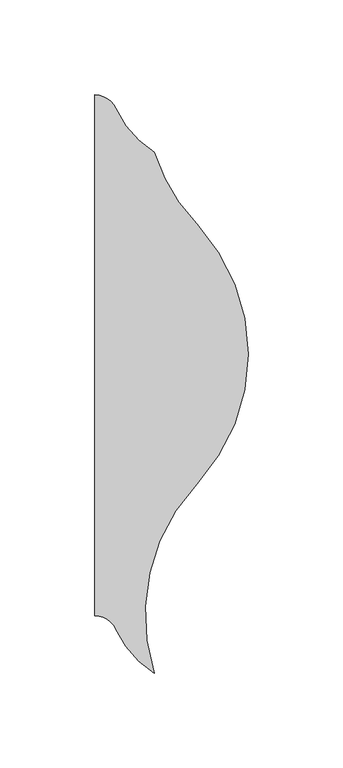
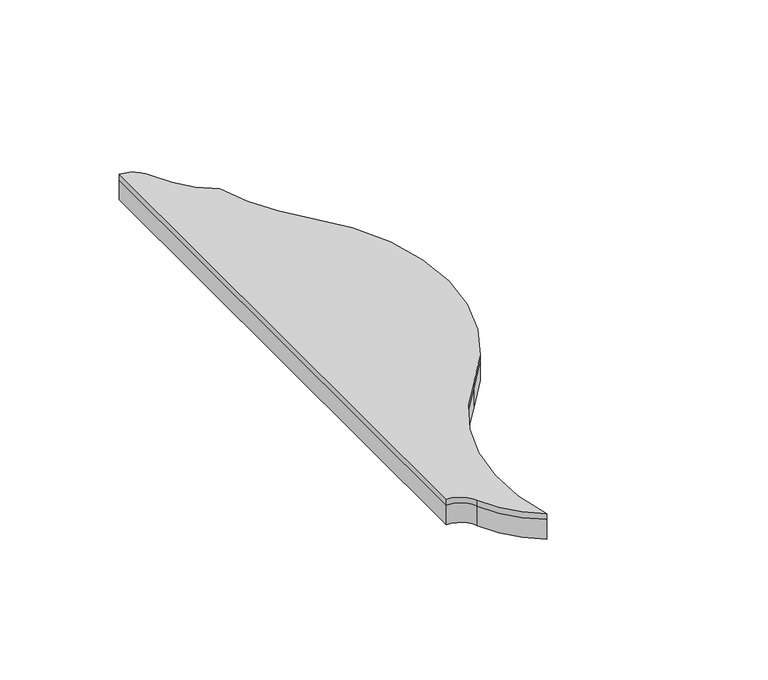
"""IFC4 building model written with IfcOpenShell, lengths in millimetres: proxy geometry, FilzFelt_Fish_Block : Fish Block."""

from ifc_helpers import new_model, si_unit, frame, origin, place, context, project, spatial, polyline, circle_curve, source, transform, mapped, element, save
from ifc_brep_helpers import plane_surface, cylinder_surface, revolved_surface, advanced_brep


def specialty_equipment_d667eb72(model_context):
    return source(origin(), model_context, "Body", "AdvancedBrep", [
        advanced_brep(
        [(53.5486457, 68.6120133, 10.0210937), (53.5486457, -68.6120133, 10.0210937), (31.2619065, -168.1141956, 10.0210937), (11.0103348, -145.0347036, 10.0210937), (0.0, -137.8641736, 10.0210937), (0.0, 136.5838795, 10.0210937), (11.0103348, 129.4133496, 10.0210937), (31.2619065, 106.3338576, 10.0210937), (53.5486457, 68.6120133, 12.9976563), (31.2619065, 106.3338576, 12.9976563), (11.0103348, 129.4133496, 12.9976563), (0.0, 136.5838795, 12.9976563), (0.0, -137.8641736, 12.9976563), (11.0103348, -145.0347036, 12.9976563), (31.2619065, -168.1141956, 12.9976563), (53.5486457, -68.6120133, 12.9976563), (80.7142226, 0.0, 12.9976563)],
        [
            (0, 1, circle_curve(frame((-19.5151403, 0.0, 10.0210937), z_axis=(0.0, 0.0, -1.0), x_axis=(-1.0, 0.0, 0.0)), 100.2293629)),
            (1, 2, circle_curve(frame((126.6124317, -137.2240266, 10.0210937), z_axis=(0.0, 0.0, 1.0), x_axis=(-1.0, 0.0, 0.0)), 100.2293629)),
            (2, 3, circle_curve(frame((57.9263497, -124.2921115, 10.0210937), z_axis=(0.0, 0.0, -1.0), x_axis=(-1.0, 0.0, 0.0)), 51.2968574)),
            (3, 4, circle_curve(frame((0.0, -149.9026124, 10.0210937), z_axis=(0.0, 0.0, 1.0), x_axis=(-1.0, 0.0, 0.0)), 12.0384388)),
            (4, 5),
            (5, 6, circle_curve(frame((0.0, 124.5454408, 10.0210937), z_axis=(0.0, 0.0, -1.0), x_axis=(-1.0, 0.0, 0.0)), 12.0384388)),
            (6, 7, circle_curve(frame((57.9263497, 150.1559416, 10.0210937), z_axis=(0.0, 0.0, 1.0), x_axis=(-1.0, 0.0, 0.0)), 51.2968574)),
            (7, 0, circle_curve(frame((126.6124317, 137.2240266, 10.0210937), z_axis=(0.0, 0.0, 1.0), x_axis=(-1.0, 0.0, 0.0)), 100.2293629)),
            (8, 9, circle_curve(frame((126.6124317, 137.2240266, 12.9976563), z_axis=(0.0, 0.0, -1.0), x_axis=(-1.0, 0.0, 0.0)), 100.2293629)),
            (9, 10, circle_curve(frame((57.9263497, 150.1559416, 12.9976563), z_axis=(0.0, 0.0, -1.0), x_axis=(-1.0, 0.0, 0.0)), 51.2968574)),
            (10, 11, circle_curve(frame((0.0, 124.5454408, 12.9976563), z_axis=(0.0, 0.0, 1.0), x_axis=(-1.0, 0.0, 0.0)), 12.0384388)),
            (11, 12),
            (12, 13, circle_curve(frame((0.0, -149.9026124, 12.9976563), z_axis=(0.0, 0.0, -1.0), x_axis=(-1.0, 0.0, 0.0)), 12.0384388)),
            (13, 14, circle_curve(frame((57.9263497, -124.2921115, 12.9976563), z_axis=(0.0, 0.0, 1.0), x_axis=(-1.0, 0.0, 0.0)), 51.2968574)),
            (14, 15, circle_curve(frame((126.6124317, -137.2240266, 12.9976563), z_axis=(0.0, 0.0, -1.0), x_axis=(-1.0, 0.0, 0.0)), 100.2293629)),
            (15, 16, circle_curve(frame((-19.5151403, 0.0, 12.9976563), z_axis=(0.0, 0.0, 1.0), x_axis=(-1.0, 0.0, 0.0)), 100.2293629)),
            (16, 8, circle_curve(frame((-19.5151403, 0.0, 12.9976563), z_axis=(0.0, 0.0, 1.0), x_axis=(-1.0, 0.0, 0.0)), 100.2293629)),
            (0, 8),
            (15, 1),
            (14, 2),
            (13, 3),
            (12, 4),
            (10, 6),
            (5, 11),
            (9, 7),
        ],
        [
            plane_surface(frame((0.0, 0.0, 10.0210937), z_axis=(0.0, 0.0, -1.0), x_axis=(0.0, -1.0, 0.0))),
            plane_surface(frame((0.0, 0.0, 12.9976563), z_axis=(0.0, 0.0, 1.0), x_axis=(0.0, -1.0, 0.0))),
            cylinder_surface(frame((-19.5151403, 0.0, 10.0210937), z_axis=(0.0, 0.0, -1.0), x_axis=(-1.0, 0.0, 0.0)), 100.2293629),
            revolved_surface(polyline([(26.383068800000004, -137.2240266, 12.9976563), (26.383068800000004, -137.2240266, 10.0210937)]), (126.6124317, -137.2240266, 10.0210937), (0.0, 0.0, 1.0)),
            cylinder_surface(frame((57.9263497, -124.2921115, 10.0210937), z_axis=(0.0, 0.0, -1.0), x_axis=(-1.0, 0.0, 0.0)), 51.2968574),
            revolved_surface(polyline([(-12.0384388, -149.9026124, 12.9976563), (-12.0384388, -149.9026124, 10.0210937)]), (0.0, -149.9026124, 10.0210937), (0.0, 0.0, 1.0)),
            cylinder_surface(frame((0.0, 124.5454408, 10.0210937), z_axis=(0.0, 0.0, -1.0), x_axis=(-1.0, 0.0, 0.0)), 12.0384388),
            revolved_surface(polyline([(6.629492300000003, 150.1559416, 12.9976563), (6.629492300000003, 150.1559416, 10.0210937)]), (57.9263497, 150.1559416, 10.0210937), (0.0, 0.0, 1.0)),
            revolved_surface(polyline([(26.383068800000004, 137.2240266, 12.9976563), (26.383068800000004, 137.2240266, 10.0210937)]), (126.6124317, 137.2240266, 10.0210937), (0.0, 0.0, 1.0)),
            plane_surface(frame((0.0, 168.3338795, 12.9976562), z_axis=(-1.0, 0.0, 0.0), x_axis=(0.0, -1.0, 0.0))),
        ],
        [
            (0, [[1, 2, 3, 4, 5, 6, 7, 8]]),
            (1, [[9, 10, 11, 12, 13, 14, 15, 16, 17]]),
            (2, [[-1, 18, -17, -16, 19]]),
            (3, [[-2, -19, -15, 20]]),
            (4, [[-3, -20, -14, 21]]),
            (5, [[-21, -13, 22, -4]]),
            (6, [[23, -6, 24, -11]]),
            (7, [[-7, -23, -10, 25]]),
            (8, [[-8, -25, -9, -18]]),
            (9, [[-5, -22, -12, -24]]),
        ],
    ),
        advanced_brep(
        [(31.2619065, -168.1141956, 0.0), (11.0103348, -145.0347036, 0.0), (0.0, -137.8641736, 0.0), (0.0, 136.5838795, 0.0), (11.0103348, 129.4133496, 0.0), (31.2619065, 106.3338576, 0.0), (53.5486457, 68.6120133, 0.0), (80.7142226, 0.0, 0.0), (53.5486457, -68.6120133, 0.0), (31.2619065, -168.1141956, 10.0210937), (53.5486457, -68.6120133, 10.0210937), (53.5486457, 68.6120133, 10.0210937), (31.2619065, 106.3338576, 10.0210937), (11.0103348, 129.4133496, 10.0210937), (0.0, 136.5838795, 10.0210937), (0.0, -137.8641736, 10.0210937), (11.0103348, -145.0347036, 10.0210937)],
        [
            (0, 1, circle_curve(frame((57.9263497, -124.2921115, 0.0), z_axis=(0.0, 0.0, -1.0), x_axis=(-1.0, 0.0, 0.0)), 51.2968574)),
            (1, 2, circle_curve(frame((0.0, -149.9026124, 0.0), z_axis=(0.0, 0.0, 1.0), x_axis=(-1.0, 0.0, 0.0)), 12.0384388)),
            (2, 3),
            (3, 4, circle_curve(frame((0.0, 124.5454408, 0.0), z_axis=(0.0, 0.0, -1.0), x_axis=(-1.0, 0.0, 0.0)), 12.0384388)),
            (4, 5, circle_curve(frame((57.9263497, 150.1559416, 0.0), z_axis=(0.0, 0.0, 1.0), x_axis=(-1.0, 0.0, 0.0)), 51.2968574)),
            (5, 6, circle_curve(frame((126.6124317, 137.2240266, 0.0), z_axis=(0.0, 0.0, 1.0), x_axis=(-1.0, 0.0, 0.0)), 100.2293629)),
            (6, 7, circle_curve(frame((-19.5151403, 0.0, 0.0), z_axis=(0.0, 0.0, -1.0), x_axis=(-1.0, 0.0, 0.0)), 100.2293629)),
            (7, 8, circle_curve(frame((-19.5151403, 0.0, 0.0), z_axis=(0.0, 0.0, -1.0), x_axis=(-1.0, 0.0, 0.0)), 100.2293629)),
            (8, 0, circle_curve(frame((126.6124317, -137.2240266, 0.0), z_axis=(0.0, 0.0, 1.0), x_axis=(-1.0, 0.0, 0.0)), 100.2293629)),
            (9, 10, circle_curve(frame((126.6124317, -137.2240266, 10.0210937), z_axis=(0.0, 0.0, -1.0), x_axis=(-1.0, 0.0, 0.0)), 100.2293629)),
            (10, 11, circle_curve(frame((-19.5151403, 0.0, 10.0210937), z_axis=(0.0, 0.0, 1.0), x_axis=(-1.0, 0.0, 0.0)), 100.2293629)),
            (11, 12, circle_curve(frame((126.6124317, 137.2240266, 10.0210937), z_axis=(0.0, 0.0, -1.0), x_axis=(-1.0, 0.0, 0.0)), 100.2293629)),
            (12, 13, circle_curve(frame((57.9263497, 150.1559416, 10.0210937), z_axis=(0.0, 0.0, -1.0), x_axis=(-1.0, 0.0, 0.0)), 51.2968574)),
            (13, 14, circle_curve(frame((0.0, 124.5454408, 10.0210937), z_axis=(0.0, 0.0, 1.0), x_axis=(-1.0, 0.0, 0.0)), 12.0384388)),
            (14, 15),
            (15, 16, circle_curve(frame((0.0, -149.9026124, 10.0210937), z_axis=(0.0, 0.0, -1.0), x_axis=(-1.0, 0.0, 0.0)), 12.0384388)),
            (16, 9, circle_curve(frame((57.9263497, -124.2921115, 10.0210937), z_axis=(0.0, 0.0, 1.0), x_axis=(-1.0, 0.0, 0.0)), 51.2968574)),
            (0, 9),
            (16, 1),
            (15, 2),
            (13, 4),
            (3, 14),
            (12, 5),
            (11, 6),
            (10, 8),
        ],
        [
            plane_surface(frame((0.0, 0.0, 0.0), z_axis=(0.0, 0.0, -1.0), x_axis=(0.0, -1.0, 0.0))),
            plane_surface(frame((0.0, 0.0, 10.0210937), z_axis=(0.0, 0.0, 1.0), x_axis=(0.0, -1.0, 0.0))),
            cylinder_surface(frame((57.9263497, -124.2921115, 0.0), z_axis=(0.0, 0.0, -1.0), x_axis=(-1.0, 0.0, 0.0)), 51.2968574),
            revolved_surface(polyline([(-12.0384388, -149.9026124, 10.0210937), (-12.0384388, -149.9026124, 0.0)]), (0.0, -149.9026124, 0.0), (0.0, 0.0, 1.0)),
            cylinder_surface(frame((0.0, 124.5454408, 0.0), z_axis=(0.0, 0.0, -1.0), x_axis=(-1.0, 0.0, 0.0)), 12.0384388),
            revolved_surface(polyline([(6.629492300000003, 150.1559416, 10.0210937), (6.629492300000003, 150.1559416, 0.0)]), (57.9263497, 150.1559416, 0.0), (0.0, 0.0, 1.0)),
            revolved_surface(polyline([(26.383068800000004, 137.2240266, 10.0210937), (26.383068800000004, 137.2240266, 0.0)]), (126.6124317, 137.2240266, 0.0), (0.0, 0.0, 1.0)),
            cylinder_surface(frame((-19.5151403, 0.0, 0.0), z_axis=(0.0, 0.0, -1.0), x_axis=(-1.0, 0.0, 0.0)), 100.2293629),
            revolved_surface(polyline([(26.383068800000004, -137.2240266, 10.0210937), (26.383068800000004, -137.2240266, 0.0)]), (126.6124317, -137.2240266, 0.0), (0.0, 0.0, 1.0)),
            plane_surface(frame((0.0, 168.3338795, 12.9976562), z_axis=(-1.0, 0.0, 0.0), x_axis=(0.0, -1.0, 0.0))),
        ],
        [
            (0, [[1, 2, 3, 4, 5, 6, 7, 8, 9]]),
            (1, [[10, 11, 12, 13, 14, 15, 16, 17]]),
            (2, [[-1, 18, -17, 19]]),
            (3, [[-19, -16, 20, -2]]),
            (4, [[21, -4, 22, -14]]),
            (5, [[-5, -21, -13, 23]]),
            (6, [[-6, -23, -12, 24]]),
            (7, [[-11, 25, -8, -7, -24]]),
            (8, [[-9, -25, -10, -18]]),
            (9, [[-3, -20, -15, -22]]),
        ],
    ),
    ])


if __name__ == "__main__":
    model = new_model("IFC4")
    model_context = context("Model", 3, world=origin())
    ifc_project = project(units=[si_unit("LENGTHUNIT", "METRE", prefix="MILLI")], contexts=[model_context])
    site = spatial("IfcSite", under=ifc_project)
    building = spatial("IfcBuilding", under=site)
    placement = place(None, origin())
    specialty_equipment_shape = specialty_equipment_d667eb72(model_context)
    element("IfcBuildingElementProxy", 1, Name="FilzFelt_Fish_Block : Fish Block", ObjectType="FilzFelt_Fish_Block : Fish Block", at=placement, inside=building, context=model_context, shape_type="MappedRepresentation", body=[
        mapped(specialty_equipment_shape, transform((0.0, 0.0, 0.0), x_axis=(1.0, 0.0, 0.0), y_axis=(0.0, 1.0, 0.0), z_axis=(0.0, 0.0, 1.0))),
    ])
    save(model, "model.ifc")
